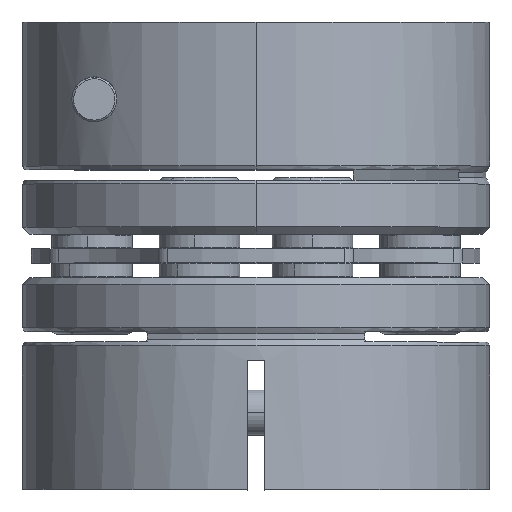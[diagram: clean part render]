
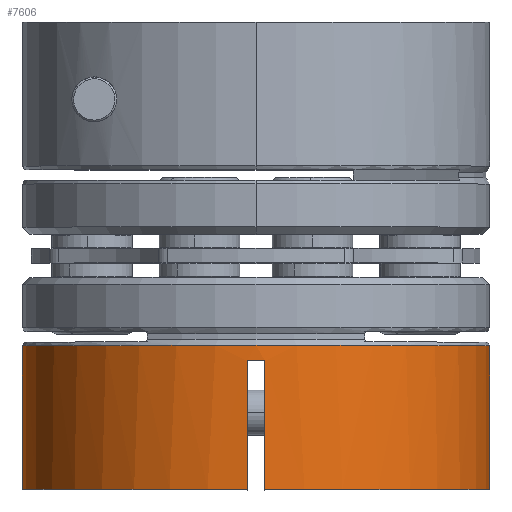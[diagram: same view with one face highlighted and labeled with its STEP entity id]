
A CAD part, top view. The second image highlights one B-rep face of the part: STEP entity #7606.
In plain terms, the highlighted cylindrical face has radius 13 mm (diameter 26 mm), a partial arc.
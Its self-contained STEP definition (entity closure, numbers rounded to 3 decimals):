
#459 = CARTESIAN_POINT ( 'NONE',  ( 1.755, -18.289, 0. ) ) ;
#728 = EDGE_CURVE ( 'NONE', #22130, #16991, #6126, .T. ) ;
#1516 = DIRECTION ( 'NONE',  ( 0., -1., 0. ) ) ;
#1629 = CARTESIAN_POINT ( 'NONE',  ( 1.255, -19.154, 12.99 ) ) ;
#1874 = AXIS2_PLACEMENT_3D ( 'NONE', #12122, #13768, #6504 ) ;
#1986 = VECTOR ( 'NONE', #20911, 1000. ) ;
#2139 = LINE ( 'NONE', #15422, #4897 ) ;
#2260 = DIRECTION ( 'NONE',  ( 0., 1., 0. ) ) ;
#2761 = CARTESIAN_POINT ( 'NONE',  ( 14.755, -18.289, 0. ) ) ;
#3327 = CARTESIAN_POINT ( 'NONE',  ( 2.255, -19.154, 12.99 ) ) ;
#3481 = CARTESIAN_POINT ( 'NONE',  ( 14.755, -56.94, 0. ) ) ;
#3566 = CARTESIAN_POINT ( 'NONE',  ( -11.245, -26.289, 0. ) ) ;
#3894 = VERTEX_POINT ( 'NONE', #22194 ) ;
#4041 = EDGE_CURVE ( 'NONE', #22130, #3894, #2139, .T. ) ;
#4763 = VECTOR ( 'NONE', #8457, 1000. ) ;
#4897 = VECTOR ( 'NONE', #4921, 1000. ) ;
#4921 = DIRECTION ( 'NONE',  ( 0., -1., 0. ) ) ;
#5061 = LINE ( 'NONE', #15710, #1986 ) ;
#5164 = CARTESIAN_POINT ( 'NONE',  ( 2.255, -26.289, 12.99 ) ) ;
#5614 = EDGE_CURVE ( 'NONE', #10959, #8463, #22381, .T. ) ;
#5865 = LINE ( 'NONE', #3481, #4763 ) ;
#5882 = CARTESIAN_POINT ( 'NONE',  ( -11.245, -56.94, 0. ) ) ;
#5955 = CARTESIAN_POINT ( 'NONE',  ( -11.245, -18.289, 0. ) ) ;
#6126 = B_SPLINE_CURVE_WITH_KNOTS ( 'NONE', 3,
 ( #1629, #12047, #21141, #3327 ),
 .UNSPECIFIED., .F., .F.,
 ( 4, 4 ),
 ( 0., 0.001 ),
 .UNSPECIFIED. ) ;
#6169 = DIRECTION ( 'NONE',  ( 1., 0., 0. ) ) ;
#6504 = DIRECTION ( 'NONE',  ( -1., 0., 0. ) ) ;
#6847 = CARTESIAN_POINT ( 'NONE',  ( 14.755, -26.289, 0. ) ) ;
#7463 = DIRECTION ( 'NONE',  ( -1., 0., 0. ) ) ;
#7606 = ADVANCED_FACE ( 'NONE', ( #18440 ), #21221, .T. ) ;
#7969 = EDGE_CURVE ( 'NONE', #10499, #8463, #5865, .T. ) ;
#8009 = ORIENTED_EDGE ( 'NONE', *, *, #728, .T. ) ;
#8014 = EDGE_CURVE ( 'NONE', #16991, #20951, #5061, .T. ) ;
#8457 = DIRECTION ( 'NONE',  ( 0., 1., 0. ) ) ;
#8463 = VERTEX_POINT ( 'NONE', #2761 ) ;
#9909 = EDGE_CURVE ( 'NONE', #3894, #10716, #17795, .T. ) ;
#9995 = VECTOR ( 'NONE', #2260, 1000. ) ;
#10499 = VERTEX_POINT ( 'NONE', #6847 ) ;
#10557 = ORIENTED_EDGE ( 'NONE', *, *, #13785, .F. ) ;
#10716 = VERTEX_POINT ( 'NONE', #3566 ) ;
#10959 = VERTEX_POINT ( 'NONE', #5955 ) ;
#12047 = CARTESIAN_POINT ( 'NONE',  ( 1.589, -19.16, 13.003 ) ) ;
#12122 = CARTESIAN_POINT ( 'NONE',  ( 1.755, -56.94, 0. ) ) ;
#12166 = CARTESIAN_POINT ( 'NONE',  ( 1.755, -26.289, 0. ) ) ;
#12468 = EDGE_CURVE ( 'NONE', #10716, #10959, #18104, .T. ) ;
#13042 = DIRECTION ( 'NONE',  ( 0., -1., 0. ) ) ;
#13768 = DIRECTION ( 'NONE',  ( 0., 1., 0. ) ) ;
#13785 = EDGE_CURVE ( 'NONE', #10499, #20951, #15823, .T. ) ;
#15134 = CARTESIAN_POINT ( 'NONE',  ( 1.755, -26.289, 0. ) ) ;
#15422 = CARTESIAN_POINT ( 'NONE',  ( 1.255, -14.489, 12.99 ) ) ;
#15710 = CARTESIAN_POINT ( 'NONE',  ( 2.255, -14.489, 12.99 ) ) ;
#15823 = CIRCLE ( 'NONE', #17947, 13. ) ;
#15830 = DIRECTION ( 'NONE',  ( 1., 0., 0. ) ) ;
#16429 = CARTESIAN_POINT ( 'NONE',  ( 2.255, -19.154, 12.99 ) ) ;
#16991 = VERTEX_POINT ( 'NONE', #16429 ) ;
#17795 = CIRCLE ( 'NONE', #20855, 13. ) ;
#17947 = AXIS2_PLACEMENT_3D ( 'NONE', #12166, #1516, #15830 ) ;
#18104 = LINE ( 'NONE', #5882, #9995 ) ;
#18119 = CARTESIAN_POINT ( 'NONE',  ( 1.255, -19.154, 12.99 ) ) ;
#18440 = FACE_OUTER_BOUND ( 'NONE', #21770, .T. ) ;
#19939 = ORIENTED_EDGE ( 'NONE', *, *, #12468, .F. ) ;
#20183 = ORIENTED_EDGE ( 'NONE', *, *, #4041, .F. ) ;
#20316 = ORIENTED_EDGE ( 'NONE', *, *, #5614, .F. ) ;
#20855 = AXIS2_PLACEMENT_3D ( 'NONE', #15134, #13042, #6169 ) ;
#20911 = DIRECTION ( 'NONE',  ( 0., -1., 0. ) ) ;
#20951 = VERTEX_POINT ( 'NONE', #5164 ) ;
#21141 = CARTESIAN_POINT ( 'NONE',  ( 1.922, -19.16, 13.003 ) ) ;
#21221 = CYLINDRICAL_SURFACE ( 'NONE', #1874, 13. ) ;
#21702 = DIRECTION ( 'NONE',  ( 0., 1., 0. ) ) ;
#21770 = EDGE_LOOP ( 'NONE', ( #10557, #22291, #20316, #19939, #22468, #20183, #8009, #22283 ) ) ;
#22130 = VERTEX_POINT ( 'NONE', #18119 ) ;
#22194 = CARTESIAN_POINT ( 'NONE',  ( 1.255, -26.289, 12.99 ) ) ;
#22240 = AXIS2_PLACEMENT_3D ( 'NONE', #459, #21702, #7463 ) ;
#22283 = ORIENTED_EDGE ( 'NONE', *, *, #8014, .T. ) ;
#22291 = ORIENTED_EDGE ( 'NONE', *, *, #7969, .T. ) ;
#22381 = CIRCLE ( 'NONE', #22240, 13. ) ;
#22468 = ORIENTED_EDGE ( 'NONE', *, *, #9909, .F. ) ;
